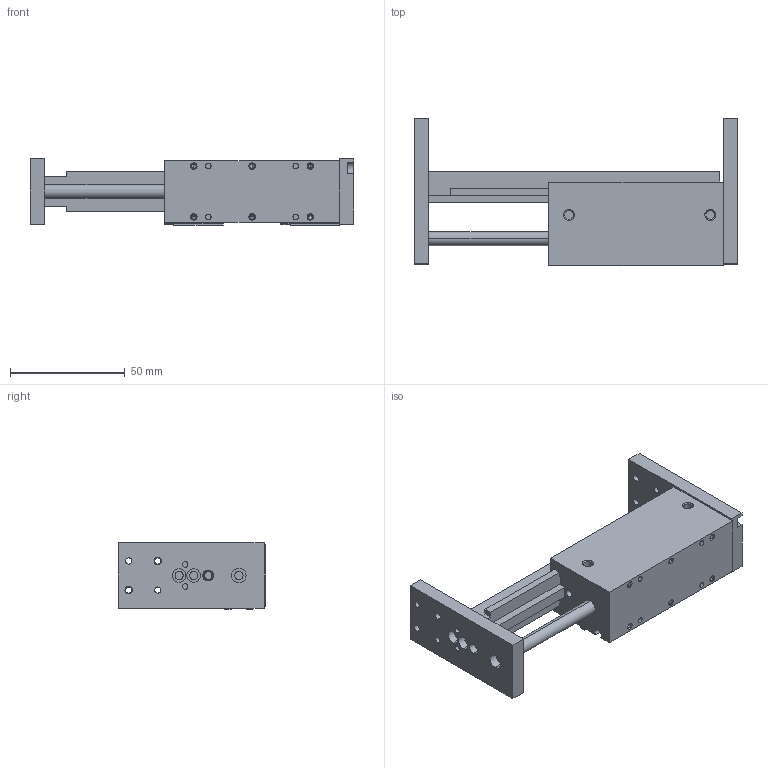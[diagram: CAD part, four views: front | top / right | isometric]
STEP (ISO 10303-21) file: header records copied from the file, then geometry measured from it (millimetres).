
FILE_DESCRIPTION (( 'STEP AP203' ), '1' );
FILE_NAME ('AGPS-2-4 OPEN in MM.STEP', '2014-11-21T20:03:54', ( 'setup' ), ( '' ), 'SwSTEP 2.0', 'SolidWorks 2013', '' );
FILE_SCHEMA (( 'CONFIG_CONTROL_DESIGN' ));
Length unit declared in the file: millimetre
Products named in the file (8): AGPS-2-4 OPEN in MM; AGPS-2-4 PROD; AGPS-2-4 SENSOR; AGPS-2-4 END PLATE A; AGPS-2-4 BODY; AGPS-2-4 CUSHION; AGPS-2-4 END PLATE B; AGPS-2-4 RAIL
Assembly tree (8 placements, depth 2):
  AGPS-2-4 OPEN in MM
    AGPS-2-4 BODY
    AGPS-2-4 CUSHION
    AGPS-2-4 RAIL
    AGPS-2-4 PROD
    AGPS-2-4 SENSOR  x2
    AGPS-2-4 END PLATE A
    AGPS-2-4 END PLATE B
Bounding box: 141.29 x 64.16 x 29 mm (x, y, z)
Volume: 102392 mm3; surface area: 39190.9 mm2
Topology: 8 solids, 8 shells, 332 faces, 796 edges, 502 vertices
Faces by surface type: cylinder 147, plane 127, cone 56, torus 2
Entity records: 9905 total; most frequent: CARTESIAN_POINT 1653, DIRECTION 1643, ORIENTED_EDGE 1434, EDGE_CURVE 717, AXIS2_PLACEMENT_3D 624, VERTEX_POINT 462, LINE 395, VECTOR 395
